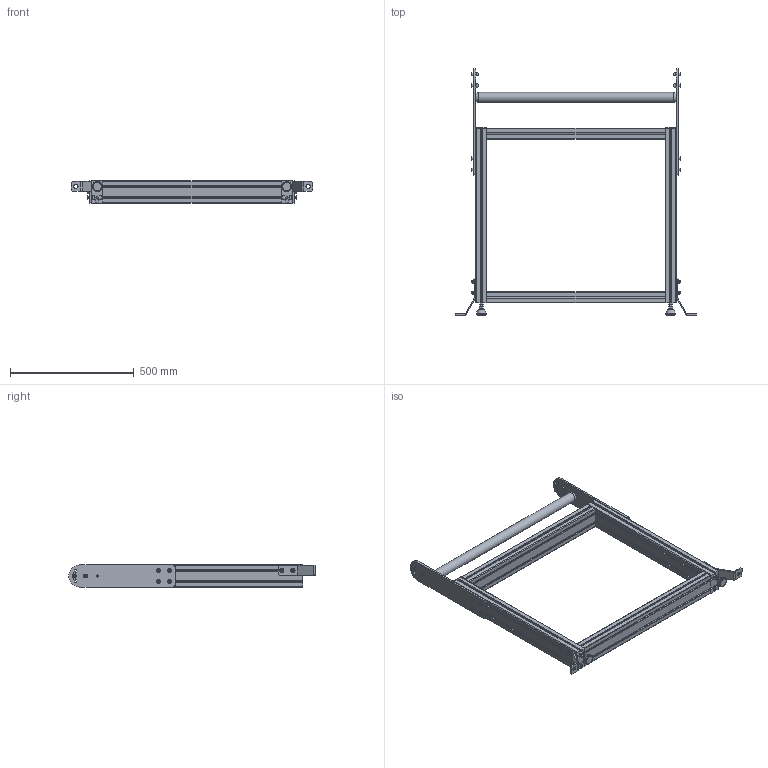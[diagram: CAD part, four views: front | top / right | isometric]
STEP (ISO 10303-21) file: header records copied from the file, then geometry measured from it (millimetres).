
FILE_DESCRIPTION (( 'STEP AP214' ), '1' );
FILE_NAME ('988-008-800.STEP', '2022-10-10T14:14:49', ( '' ), ( '' ), 'SwSTEP 2.0', 'SolidWorks 2022', '' );
FILE_SCHEMA (( 'AUTOMOTIVE_DESIGN' ));
Length unit declared in the file: millimetre
Products named in the file (16): 910-100; 987-017; CHASSIS JAMBAGE TB100 800_Défaut[Brut d''usinage]; 935-055; RONDELLE_910-111; 905-021; 988-008-800; 935-016; 910-002_910-235; CHC THE_910-052H; 905-020; CHC M8X20 + RP8; 988-007; EMBOUT_915-013; 935-055SV; 982-010-800
Assembly tree (28 placements, depth 4):
  988-008-800
    CHASSIS JAMBAGE TB100 800_Défaut[Brut d''usinage]
    935-055  x2
      935-055SV
      910-100
      910-002_910-235
    EMBOUT_915-013  x2
    935-016  x2
    988-007  x2
      987-017
      CHC M8X20 + RP8
        CHC THE_910-052H
        RONDELLE_910-111
      905-021
      905-020
    982-010-800
Bounding box: 976 x 995 x 90 mm (x, y, z)
Volume: 10104884.2 mm3; surface area: 1949009.5 mm2
Topology: 53 solids, 53 shells, 1129 faces, 2737 edges, 1744 vertices
Faces by surface type: plane 746, cylinder 221, cone 128, torus 24, sphere 8, bspline 2
Full cylindrical faces by diameter (mm): 6 x12, 6.8 x16, 7.3 x8, 7.98 x12, 8 x22, 8.4 x12, 8.5 x12, 9 x4, 13 x12, 16 x12, 17 x4, 34 x2, 40 x3
Entity records: 14783 total; most frequent: CARTESIAN_POINT 2582, DIRECTION 2328, ORIENTED_EDGE 2324, EDGE_CURVE 1162, VECTOR 952, LINE 952, VERTEX_POINT 790, AXIS2_PLACEMENT_3D 688
